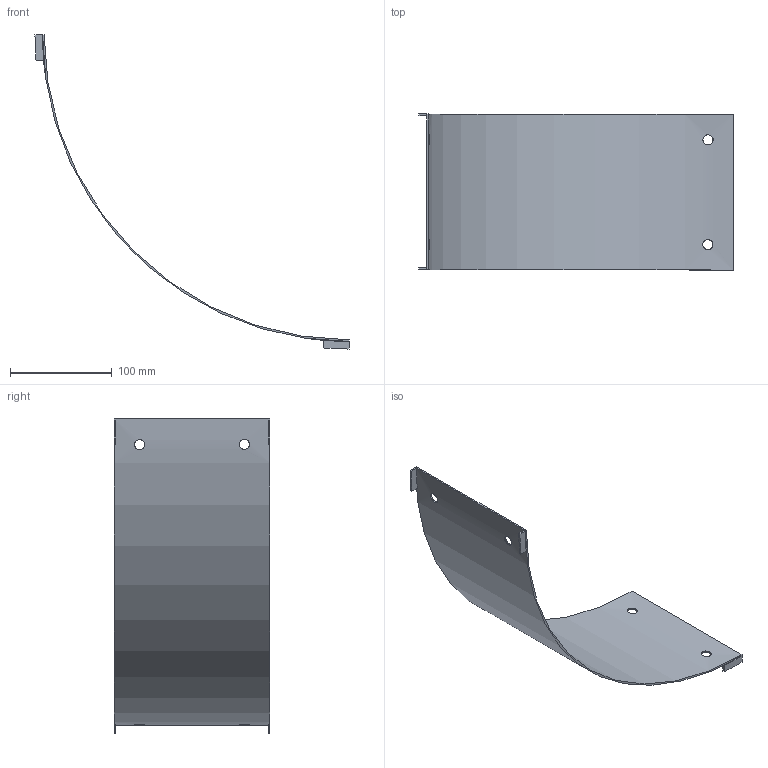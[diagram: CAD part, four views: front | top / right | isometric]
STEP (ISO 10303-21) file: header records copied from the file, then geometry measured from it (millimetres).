
FILE_DESCRIPTION(/* description */ ('','CAx-IF Rec.Pracs.---Representation and Presentation of Product Manufacturing Information (PMI)---4.0---2014-10-13'),/* implementation_level */ '2;1');
FILE_NAME(/* name */ 'Eurostrut_EIRC100-90-300_Cover Inside Riser 90 for Cable Ladder ECL.step',/* time_stamp */ '2026-09-10T11:54:25+02:00',/* author */ (''),/* organization */ (''),/* preprocessor_version */ 'ST-DEVELOPER v20.1',/* originating_system */ 'Autodesk Revit 2027 27.2.0.39',/* authorisation */ '');
FILE_SCHEMA (('AP242_MANAGED_MODEL_BASED_3D_ENGINEERING_MIM_LF { 1 0 10303 442 2 1 4 }'));
Length unit declared in the file: millimetre
Products named in the file (3): TopLevelAssembly; Sweep; Joined Solid Geometry
Assembly tree (2 placements, depth 2):
  TopLevelAssembly
    Sweep
    Joined Solid Geometry
Bounding box: 309 x 153 x 309 mm (x, y, z)
Volume: 109074.7 mm3; surface area: 147888.4 mm2
Topology: 5 solids, 5 shells, 38 faces, 84 edges, 56 vertices
Faces by surface type: plane 20, cylinder 18
Entity records: 1358 total; most frequent: CARTESIAN_POINT 461, DIRECTION 174, ORIENTED_EDGE 168, EDGE_CURVE 84, AXIS2_PLACEMENT_3D 63, VERTEX_POINT 56, LINE 48, VECTOR 48
